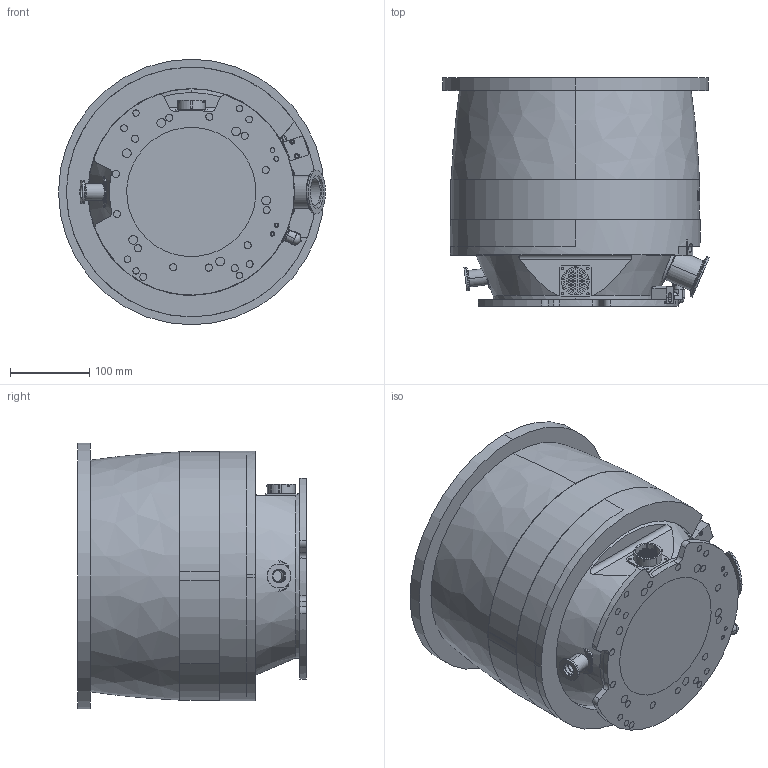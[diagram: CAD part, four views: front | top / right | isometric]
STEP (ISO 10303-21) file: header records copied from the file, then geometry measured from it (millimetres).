
FILE_DESCRIPTION((''),'2;1');
FILE_NAME('ENV-ATP2300M-DN-250-ISO-F','2007-09-06T',('NVARENNES'),(''),'PRO/ENGINEER BY PARAMETRIC TECHNOLOGY CORPORATION, 2006510','PRO/ENGINEER BY PARAMETRIC TECHNOLOGY CORPORATION, 2006510','');
FILE_SCHEMA(('CONFIG_CONTROL_DESIGN'));
Length unit declared in the file: millimetre
Products named in the file (1): ENV-ATP2300M-DN-250-ISO-F
Bounding box: 336.69 x 288.2 x 335 mm (x, y, z)
Volume: 19367636.6 mm3; surface area: 609656.9 mm2
Topology: 1 solids, 6 shells, 1028 faces, 2660 edges, 1643 vertices
Faces by surface type: cylinder 404, plane 243, bspline 179, sphere 111, cone 62, torus 29
Entity records: 35598 total; most frequent: CARTESIAN_POINT 11351, ORIENTED_EDGE 5074, DIRECTION 4818, EDGE_CURVE 2537, AXIS2_PLACEMENT_3D 1899, VERTEX_POINT 1642, EDGE_LOOP 1219, CIRCLE 1049
